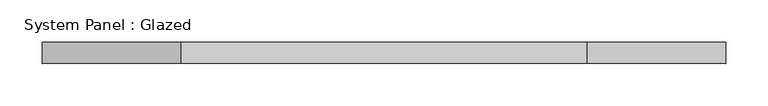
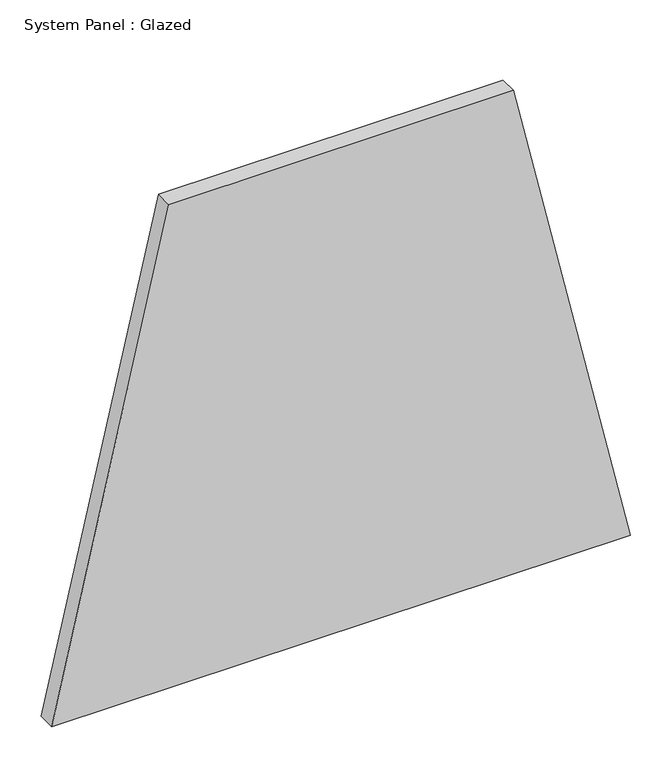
"""IFC4 building model written with IfcOpenShell, lengths in millimetres: plate geometry, System Panel : Glazed."""

from ifc_helpers import new_model, si_unit, frame, origin, place, context, project, spatial, polyline, outline, extrude, source, transform, mapped, element, save


def system_panel_glazed_17e44092(model_context):
    return source(origin(), model_context, "Body", "SweptSolid", [
        extrude(outline(polyline([(0.0, -406.4555288), (0.0, 406.4555288), (717.2744852, 241.763078), (717.2744852, -241.763078), (0.0, -406.4555288)])), frame((0.0, 19.05, 0.0), z_axis=(0.0, 1.0, 0.0), x_axis=(0.0, 0.0, 1.0)), (0.0, 0.0, 1.0), 25.4),
    ])


if __name__ == "__main__":
    model = new_model("IFC4")
    model_context = context("Model", 3, world=origin())
    ifc_project = project(units=[si_unit("LENGTHUNIT", "METRE", prefix="MILLI")], contexts=[model_context])
    site = spatial("IfcSite", under=ifc_project)
    building = spatial("IfcBuilding", under=site)
    placement = place(None, origin())
    system_panel_glazed_shape = system_panel_glazed_17e44092(model_context)
    element("IfcPlate", 1, ObjectType="System Panel : Glazed", at=placement, inside=building, context=model_context, shape_type="MappedRepresentation", body=[
        mapped(system_panel_glazed_shape, transform((0.0, 0.0, 0.0), x_axis=(1.0, 0.0, 0.0), y_axis=(0.0, 1.0, 0.0), z_axis=(0.0, 0.0, 1.0))),
    ])
    save(model, "model.ifc")
